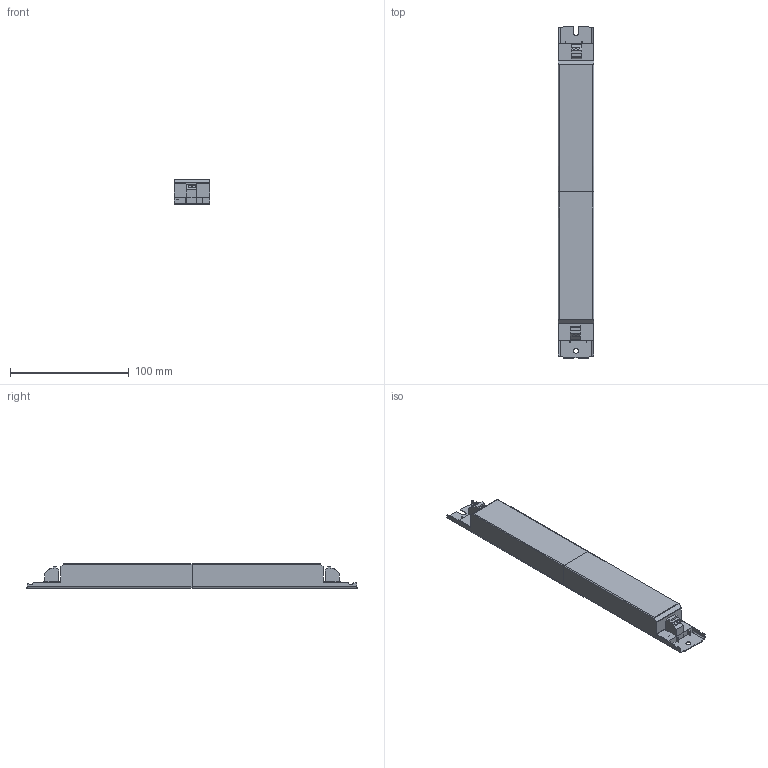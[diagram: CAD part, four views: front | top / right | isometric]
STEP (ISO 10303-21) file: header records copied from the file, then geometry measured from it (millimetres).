
FILE_DESCRIPTION((''),'2;1');
FILE_NAME('23000316','2018-03-29T',('Elon.Guo'),(''),'PRO/ENGINEER BY PARAMETRIC TECHNOLOGY CORPORATION, 2015200','PRO/ENGINEER BY PARAMETRIC TECHNOLOGY CORPORATION, 2015200','');
FILE_SCHEMA(('AUTOMOTIVE_DESIGN { 1 0 10303 214 1 1 1 1 }'));
Length unit declared in the file: millimetre
Products named in the file (5): DATAMEC-1; DATAMEC-2; DATAMEC-3; 0003336519; 23000316
Assembly tree (4 placements, depth 2):
  23000316
    DATAMEC-1
    DATAMEC-2
    DATAMEC-3
    0003336519
Bounding box: 30 x 280 x 21 mm (x, y, z)
Volume: 147317.4 mm3; surface area: 30554.3 mm2
Topology: 4 solids, 23 shells, 193 faces, 522 edges, 362 vertices
Faces by surface type: plane 122, cylinder 67, torus 4
Entity records: 10425 total; most frequent: CARTESIAN_POINT 1313, DIRECTION 1062, ORIENTED_EDGE 1008, PRESENTATION_STYLE_ASSIGNMENT 598, STYLED_ITEM 544, CURVE_STYLE 522, EDGE_CURVE 522, AXIS2_PLACEMENT_3D 362
